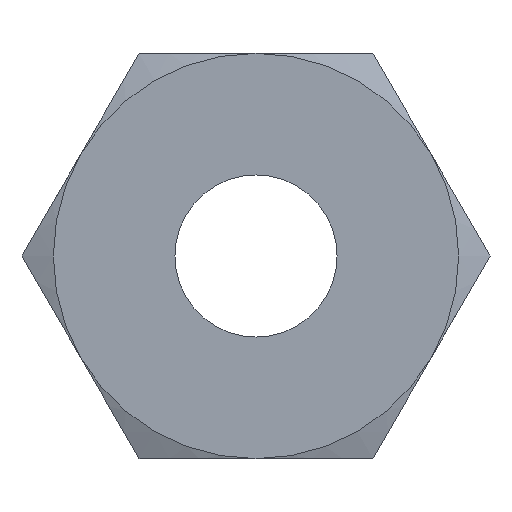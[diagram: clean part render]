
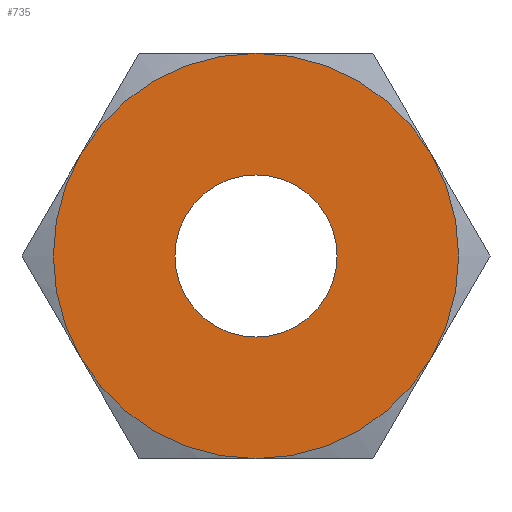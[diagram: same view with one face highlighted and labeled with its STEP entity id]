
A CAD part, front view. The second image highlights one B-rep face of the part: STEP entity #735.
In plain terms, the highlighted planar face has unit normal (0, -1, 0).
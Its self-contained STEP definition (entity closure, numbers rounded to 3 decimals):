
#14 = VERTEX_POINT ( 'NONE', #31 ) ;
#31 = CARTESIAN_POINT ( 'NONE',  ( 7.361, 0., -4.25 ) ) ;
#119 = CARTESIAN_POINT ( 'NONE',  ( -7.361, 0., 4.25 ) ) ;
#143 = CARTESIAN_POINT ( 'NONE',  ( 0., 0., -8.5 ) ) ;
#206 = CARTESIAN_POINT ( 'NONE',  ( -7.361, 0., -4.25 ) ) ;
#231 = CARTESIAN_POINT ( 'NONE',  ( 0., 0., -3.4 ) ) ;
#246 = CIRCLE ( 'NONE', #281, 3.4 ) ;
#256 = CARTESIAN_POINT ( 'NONE',  ( 7.361, 0., 4.25 ) ) ;
#265 = CARTESIAN_POINT ( 'NONE',  ( 0., 0., 3.4 ) ) ;
#279 = DIRECTION ( 'NONE',  ( 0., 0., -1. ) ) ;
#280 = DIRECTION ( 'NONE',  ( 0., -1., 0. ) ) ;
#281 = AXIS2_PLACEMENT_3D ( 'NONE', #289, #280, #279 ) ;
#289 = CARTESIAN_POINT ( 'NONE',  ( 0., 0., 0. ) ) ;
#302 = AXIS2_PLACEMENT_3D ( 'NONE', #348, #343, #342 ) ;
#312 = CIRCLE ( 'NONE', #302, 8.5 ) ;
#318 = CARTESIAN_POINT ( 'NONE',  ( 0., 0., 8.5 ) ) ;
#328 = CARTESIAN_POINT ( 'NONE',  ( 0., 0., 0. ) ) ;
#329 = AXIS2_PLACEMENT_3D ( 'NONE', #328, #353, #352 ) ;
#336 = CIRCLE ( 'NONE', #329, 8.5 ) ;
#342 = DIRECTION ( 'NONE',  ( 0., 0., -1. ) ) ;
#343 = DIRECTION ( 'NONE',  ( 0., -1., 0. ) ) ;
#348 = CARTESIAN_POINT ( 'NONE',  ( 0., 0., 0. ) ) ;
#352 = DIRECTION ( 'NONE',  ( 0., 0., -1. ) ) ;
#353 = DIRECTION ( 'NONE',  ( 0., -1., 0. ) ) ;
#354 = CIRCLE ( 'NONE', #392, 8.5 ) ;
#379 = DIRECTION ( 'NONE',  ( 0., 0., -1. ) ) ;
#380 = DIRECTION ( 'NONE',  ( 0., -1., 0. ) ) ;
#381 = CIRCLE ( 'NONE', #407, 8.5 ) ;
#382 = CIRCLE ( 'NONE', #384, 8.5 ) ;
#384 = AXIS2_PLACEMENT_3D ( 'NONE', #391, #430, #429 ) ;
#391 = CARTESIAN_POINT ( 'NONE',  ( 0., 0., 0. ) ) ;
#392 = AXIS2_PLACEMENT_3D ( 'NONE', #403, #380, #379 ) ;
#403 = CARTESIAN_POINT ( 'NONE',  ( 0., 0., 0. ) ) ;
#407 = AXIS2_PLACEMENT_3D ( 'NONE', #458, #451, #450 ) ;
#408 = FACE_BOUND ( 'NONE', #725, .T. ) ;
#412 = AXIS2_PLACEMENT_3D ( 'NONE', #457, #456, #455 ) ;
#426 = CIRCLE ( 'NONE', #412, 8.5 ) ;
#427 = AXIS2_PLACEMENT_3D ( 'NONE', #453, #446, #445 ) ;
#429 = DIRECTION ( 'NONE',  ( 0., 0., -1. ) ) ;
#430 = DIRECTION ( 'NONE',  ( 0., -1., 0. ) ) ;
#438 = DIRECTION ( 'NONE',  ( 0., 0., -1. ) ) ;
#439 = DIRECTION ( 'NONE',  ( 0., -1., 0. ) ) ;
#440 = CARTESIAN_POINT ( 'NONE',  ( 0., 0., 0. ) ) ;
#441 = AXIS2_PLACEMENT_3D ( 'NONE', #440, #439, #438 ) ;
#445 = DIRECTION ( 'NONE',  ( 0., 0., -1. ) ) ;
#446 = DIRECTION ( 'NONE',  ( 0., -1., 0. ) ) ;
#447 = CIRCLE ( 'NONE', #441, 3.4 ) ;
#450 = DIRECTION ( 'NONE',  ( 0., 0., -1. ) ) ;
#451 = DIRECTION ( 'NONE',  ( 0., -1., 0. ) ) ;
#452 = FACE_OUTER_BOUND ( 'NONE', #724, .T. ) ;
#453 = CARTESIAN_POINT ( 'NONE',  ( -4.907, 0., 8.5 ) ) ;
#454 = PLANE ( 'NONE',  #427 ) ;
#455 = DIRECTION ( 'NONE',  ( 0., 0., -1. ) ) ;
#456 = DIRECTION ( 'NONE',  ( 0., -1., 0. ) ) ;
#457 = CARTESIAN_POINT ( 'NONE',  ( 0., 0., 0. ) ) ;
#458 = CARTESIAN_POINT ( 'NONE',  ( 0., 0., 0. ) ) ;
#608 = VERTEX_POINT ( 'NONE', #119 ) ;
#623 = VERTEX_POINT ( 'NONE', #143 ) ;
#624 = VERTEX_POINT ( 'NONE', #206 ) ;
#637 = VERTEX_POINT ( 'NONE', #231 ) ;
#660 = VERTEX_POINT ( 'NONE', #256 ) ;
#670 = VERTEX_POINT ( 'NONE', #265 ) ;
#674 = EDGE_CURVE ( 'NONE', #670, #637, #246, .T. ) ;
#689 = VERTEX_POINT ( 'NONE', #318 ) ;
#696 = EDGE_CURVE ( 'NONE', #14, #660, #312, .T. ) ;
#708 = EDGE_CURVE ( 'NONE', #660, #689, #336, .T. ) ;
#718 = EDGE_CURVE ( 'NONE', #624, #623, #354, .T. ) ;
#719 = EDGE_CURVE ( 'NONE', #623, #14, #382, .T. ) ;
#720 = ORIENTED_EDGE ( 'NONE', *, *, #708, .T. ) ;
#721 = ORIENTED_EDGE ( 'NONE', *, *, #674, .F. ) ;
#722 = ORIENTED_EDGE ( 'NONE', *, *, #696, .T. ) ;
#724 = EDGE_LOOP ( 'NONE', ( #737, #727, #722, #720, #733, #736 ) ) ;
#725 = EDGE_LOOP ( 'NONE', ( #721, #739 ) ) ;
#727 = ORIENTED_EDGE ( 'NONE', *, *, #719, .T. ) ;
#731 = EDGE_CURVE ( 'NONE', #608, #624, #426, .T. ) ;
#732 = EDGE_CURVE ( 'NONE', #689, #608, #381, .T. ) ;
#733 = ORIENTED_EDGE ( 'NONE', *, *, #732, .T. ) ;
#735 = ADVANCED_FACE ( 'NONE', ( #408, #452 ), #454, .T. ) ;
#736 = ORIENTED_EDGE ( 'NONE', *, *, #731, .T. ) ;
#737 = ORIENTED_EDGE ( 'NONE', *, *, #718, .T. ) ;
#739 = ORIENTED_EDGE ( 'NONE', *, *, #740, .F. ) ;
#740 = EDGE_CURVE ( 'NONE', #637, #670, #447, .T. ) ;
